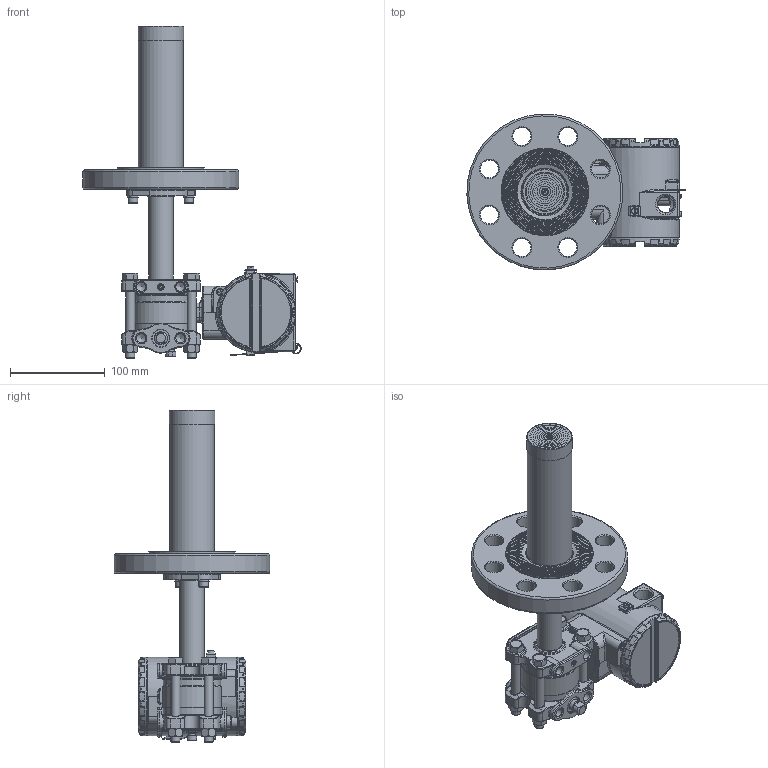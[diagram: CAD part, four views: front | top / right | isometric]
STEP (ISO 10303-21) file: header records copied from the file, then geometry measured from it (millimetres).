
FILE_DESCRIPTION(/* description */ (''),/* implementation_level */ '2;1');
FILE_NAME(/* name */ 'F:\Area\Desenvolvimento_2\Projects\Sensor\projetos\LD30X\montagens 3d - clientes\SELO NIVEL\LD30XL 2-300 RF ext 150 ref 1-4NPT purga acima.stp',/* time_stamp */ '2023-02-10T16:01:32-03:00',/* author */ ('inventor02'),/* organization */ (''),/* preprocessor_version */ 'ST-DEVELOPER v17',/* originating_system */ 'Autodesk Inventor 2019',/* authorisation */ '');
FILE_SCHEMA (('CONFIG_CONTROL_DESIGN'));
Products named in the file (41): LD30XL 2-300 RF ext 150 ref 1-4NPT purga acima; 204-0301-L-2 300 RF ext 150 purga acima; nivel fx3 com baixa diferencial 1-4NPT purga acima; involucro fx0-3 apos a usinagem final; flange diferencial std purga; 101-C-7484-01 flange selo nivel VR; 201-A-0504-tubo união teste 1; bujao 1-4NPT; Sangria; Porca 3-8 x 16 UNC; Paraf. 3-8 x 16 UNC; adaptação tubo x flanges 1-1-2 a 4pol; 101-B-0161-anel cortado do tubo - teste1; 101-B-0162-flange fixação tubo; ANSI B18.3.1M - M6x1 x 16; DIN 127 - A 6; flange 2 300 ext 150; 101-C-0117-10; 101-B-7700-01-150; 101-B-0168-11; carcaça vazia com tampas e plaqueta; carcaça LD inox sem letras; Subconjunto plaqueta 300; Plaqueta transmissor; Parafuso da Plaqueta; Rebite da Plaqueta; 096-A-0169-03; 101-A-0502-01; Chapa aterramento externo; ISO 1207 - M4 x 8; DIN 915 - M6 x 10; ANSI B18.3.1M - M4x0,7 x 8; Subconjunto tampa com visor aluminio; tampa pintada; VIDRO DO VISOR; oring 41x1 vidro tampa; Trava do vidro da tampa com visor; trava do vidro VH256; Subconjunto tampa sem visor-aluminio; tampa cega 300 pintada p0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
Assembly tree (51 placements, depth 4):
  LD30XL 2-300 RF ext 150 ref 1-4NPT purga acima
    204-0301-L-2 300 RF ext 150 purga acima
      nivel fx3 com baixa diferencial 1-4NPT purga acima
        involucro fx0-3 apos a usinagem final
        flange diferencial std purga
        101-C-7484-01 flange selo nivel VR
        201-A-0504-tubo união teste 1
        DIN 915 - M6 x 10
        bujao 1-4NPT
        Sangria
        Porca 3-8 x 16 UNC  x4
        Paraf. 3-8 x 16 UNC  x4
      adaptação tubo x flanges 1-1-2 a 4pol
        101-B-0161-anel cortado do tubo - teste1
        101-B-0162-flange fixação tubo
        ANSI B18.3.1M - M6x1 x 16  x2
        DIN 127 - A 6  x2
      flange 2 300 ext 150
        101-C-0117-10
        101-B-7700-01-150
        101-B-0168-11
    carcaça vazia com tampas e plaqueta
      carcaça LD inox sem letras
      Subconjunto plaqueta 300
        Plaqueta transmissor
        Parafuso da Plaqueta
        Rebite da Plaqueta
        096-A-0169-03
        101-A-0502-01
      Chapa aterramento externo
      ISO 1207 - M4 x 8
      DIN 915 - M6 x 10
      ANSI B18.3.1M - M4x0,7 x 8  x2
      Subconjunto tampa com visor aluminio
        tampa pintada
        VIDRO DO VISOR
        oring 41x1 vidro tampa
        Trava do vidro da tampa com visor
        trava do vidro VH256
        00034775-0
      Subconjunto tampa sem visor-aluminio
        tampa cega 300 pintada p0
        00034775-0
Bounding box: 230.7 x 164.84 x 351 mm (x, y, z)
Volume: 1089918.9 mm3; surface area: 360356.8 mm2
Topology: 43 solids, 43 shells, 2756 faces, 6595 edges, 3904 vertices
Faces by surface type: bspline 666, cylinder 660, plane 569, torus 479, cone 256, sphere 126
Full cylindrical faces by diameter (mm): 2 x4, 2.1 x2, 2.459 x5, 2.5 x1, 2.642 x1, 2.7 x1, 2.8 x1, 3 x4, 3.242 x4, 3.5 x5, 3.571 x1, 4 x5, 4.3 x1, 4.4 x1, 4.917 x4, 5 x1, 5.5 x3, 6 x6, 6.647 x1, 7 x7, 7.087 x2, 7.6 x2, 7.798 x4, 8 x1, 8.7 x2, 9.525 x4, 9.728 x6, 10 x2, 10.5 x8, 10.719 x2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
Entity records: 95071 total; most frequent: CARTESIAN_POINT 34704, DIRECTION 12469, ORIENTED_EDGE 12370, EDGE_CURVE 6185, AXIS2_PLACEMENT_3D 5507, VERTEX_POINT 3710, CIRCLE 3261, EDGE_LOOP 2813
